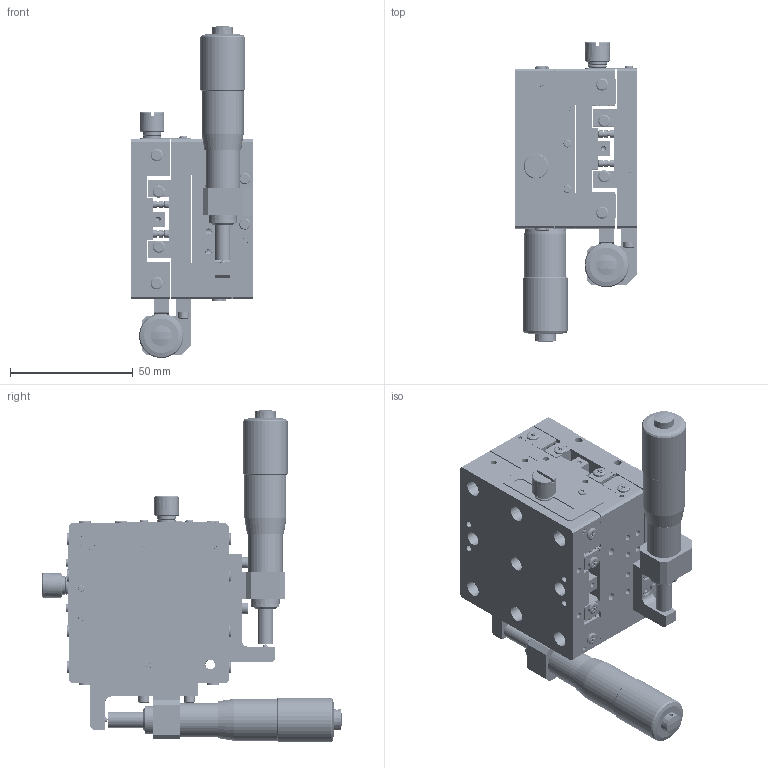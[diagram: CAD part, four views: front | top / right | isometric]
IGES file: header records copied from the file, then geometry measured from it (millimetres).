
Start section: SolidWorks IGES file using analytic representation for surfaces
Global section: file name: E:\0产品2d3d图纸-20180629\0-3种格式文件\产品图纸3d\08PBL\65\PBL-652S-M6.IGS; native system: SolidWorks 2015; preprocessor: SolidWorks 2015; author: Administrator; date: 181115.153220; units: millimetre
Bounding box: 50 x 122.19 x 135.24 mm (x, y, z)
Surface area: 115774.5 mm2 (no closed solid volume)
Topology: 0 solids, 0 shells, 2143 faces, 34843 edges, 34807 vertices
Faces by surface type: bspline 1072, revolution 1071
